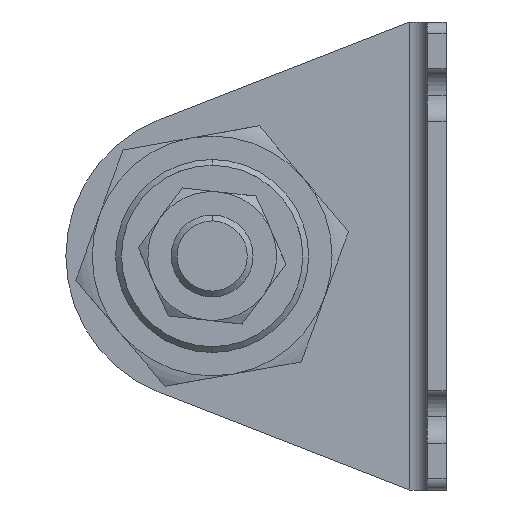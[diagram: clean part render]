
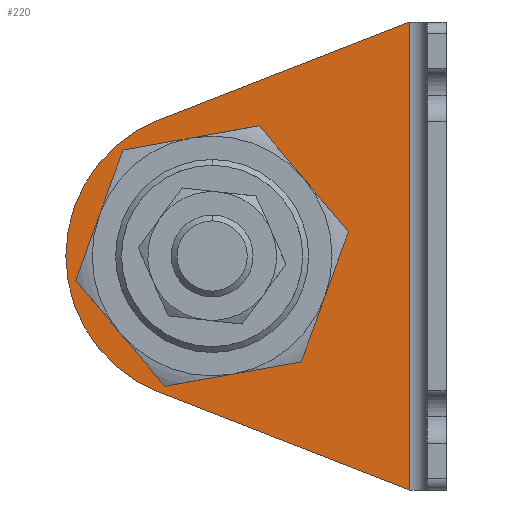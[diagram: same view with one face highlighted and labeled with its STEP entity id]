
A CAD part, left-side view. The second image highlights one B-rep face of the part: STEP entity #220.
In plain terms, the highlighted planar face has unit normal (-1, 0, 0) as drawn and (1, 0, 0) by its records, which use the part's own axes.
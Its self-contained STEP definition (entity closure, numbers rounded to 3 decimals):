
#92 = FACE_OUTER_BOUND ( 'NONE', #2438, .T. ) ;
#209 = VECTOR ( 'NONE', #4400, 1000. ) ;
#211 = CARTESIAN_POINT ( 'NONE',  ( 3.2, 23.5, -40. ) ) ;
#220 = ADVANCED_FACE ( 'NONE', ( #1463, #92 ), #3112, .T. ) ;
#252 = CARTESIAN_POINT ( 'NONE',  ( 3.2, 30.657, -9.529 ) ) ;
#290 = DIRECTION ( 'NONE',  ( 1., 0., 0. ) ) ;
#297 = VERTEX_POINT ( 'NONE', #211 ) ;
#440 = LINE ( 'NONE', #2666, #209 ) ;
#454 = EDGE_CURVE ( 'NONE', #2037, #2453, #2392, .T. ) ;
#502 = DIRECTION ( 'NONE',  ( 1., 0., 0. ) ) ;
#607 = CARTESIAN_POINT ( 'NONE',  ( 3.2, 40., -40. ) ) ;
#752 = VERTEX_POINT ( 'NONE', #942 ) ;
#892 = ORIENTED_EDGE ( 'NONE', *, *, #3447, .T. ) ;
#942 = CARTESIAN_POINT ( 'NONE',  ( 3.2, 65., -40. ) ) ;
#1058 = ORIENTED_EDGE ( 'NONE', *, *, #454, .F. ) ;
#1097 = EDGE_CURVE ( 'NONE', #1955, #297, #3489, .T. ) ;
#1231 = AXIS2_PLACEMENT_3D ( 'NONE', #4768, #2658, #2183 ) ;
#1339 = CARTESIAN_POINT ( 'NONE',  ( 3.2, 6.2, -80. ) ) ;
#1348 = CARTESIAN_POINT ( 'NONE',  ( 3.2, 40., -40. ) ) ;
#1350 = CIRCLE ( 'NONE', #3537, 25. ) ;
#1387 = CIRCLE ( 'NONE', #1231, 16.5 ) ;
#1405 = CARTESIAN_POINT ( 'NONE',  ( 3.2, 40., -40. ) ) ;
#1411 = LINE ( 'NONE', #3445, #4163 ) ;
#1463 = FACE_BOUND ( 'NONE', #1960, .T. ) ;
#1496 = VERTEX_POINT ( 'NONE', #1339 ) ;
#1660 = DIRECTION ( 'NONE',  ( 0., 1., 0. ) ) ;
#1690 = ORIENTED_EDGE ( 'NONE', *, *, #3438, .T. ) ;
#1892 = DIRECTION ( 'NONE',  ( 1., 0., 0. ) ) ;
#1955 = VERTEX_POINT ( 'NONE', #2034 ) ;
#1957 = ORIENTED_EDGE ( 'NONE', *, *, #1097, .F. ) ;
#1960 = EDGE_LOOP ( 'NONE', ( #1957, #4420 ) ) ;
#2034 = CARTESIAN_POINT ( 'NONE',  ( 3.2, 56.5, -40. ) ) ;
#2037 = VERTEX_POINT ( 'NONE', #4693 ) ;
#2087 = DIRECTION ( 'NONE',  ( 1., 0., 0. ) ) ;
#2097 = CARTESIAN_POINT ( 'NONE',  ( 3.2, 49.076, -16.706 ) ) ;
#2183 = DIRECTION ( 'NONE',  ( 0., 1., 0. ) ) ;
#2280 = ORIENTED_EDGE ( 'NONE', *, *, #3428, .T. ) ;
#2392 = LINE ( 'NONE', #252, #2891 ) ;
#2438 = EDGE_LOOP ( 'NONE', ( #4403, #1690, #2280, #1058, #892 ) ) ;
#2453 = VERTEX_POINT ( 'NONE', #2097 ) ;
#2605 = AXIS2_PLACEMENT_3D ( 'NONE', #1405, #502, #3051 ) ;
#2658 = DIRECTION ( 'NONE',  ( 1., 0., 0. ) ) ;
#2666 = CARTESIAN_POINT ( 'NONE',  ( 3.2, 6.2, -80. ) ) ;
#2744 = DIRECTION ( 'NONE',  ( 0., 1., 0. ) ) ;
#2778 = CIRCLE ( 'NONE', #3744, 25. ) ;
#2891 = VECTOR ( 'NONE', #2956, 1000. ) ;
#2956 = DIRECTION ( 'NONE',  ( 0., 0.932, -0.363 ) ) ;
#3051 = DIRECTION ( 'NONE',  ( 0., 1., 0. ) ) ;
#3078 = EDGE_CURVE ( 'NONE', #297, #1955, #1387, .T. ) ;
#3112 = PLANE ( 'NONE',  #4448 ) ;
#3267 = CARTESIAN_POINT ( 'NONE',  ( 3.2, 3.2, -80. ) ) ;
#3428 = EDGE_CURVE ( 'NONE', #752, #2453, #1350, .T. ) ;
#3438 = EDGE_CURVE ( 'NONE', #3997, #752, #2778, .T. ) ;
#3445 = CARTESIAN_POINT ( 'NONE',  ( 3.2, 3.595, -81.015 ) ) ;
#3447 = EDGE_CURVE ( 'NONE', #2037, #1496, #440, .T. ) ;
#3489 = CIRCLE ( 'NONE', #2605, 16.5 ) ;
#3537 = AXIS2_PLACEMENT_3D ( 'NONE', #607, #1892, #1660 ) ;
#3744 = AXIS2_PLACEMENT_3D ( 'NONE', #1348, #290, #2744 ) ;
#3895 = DIRECTION ( 'NONE',  ( 0., 1., 0. ) ) ;
#3997 = VERTEX_POINT ( 'NONE', #4256 ) ;
#4163 = VECTOR ( 'NONE', #4686, 1000. ) ;
#4256 = CARTESIAN_POINT ( 'NONE',  ( 3.2, 49.076, -63.294 ) ) ;
#4400 = DIRECTION ( 'NONE',  ( 0., 0., -1. ) ) ;
#4403 = ORIENTED_EDGE ( 'NONE', *, *, #4788, .T. ) ;
#4420 = ORIENTED_EDGE ( 'NONE', *, *, #3078, .F. ) ;
#4448 = AXIS2_PLACEMENT_3D ( 'NONE', #3267, #2087, #3895 ) ;
#4686 = DIRECTION ( 'NONE',  ( 0., 0.932, 0.363 ) ) ;
#4693 = CARTESIAN_POINT ( 'NONE',  ( 3.2, 6.2, 0. ) ) ;
#4768 = CARTESIAN_POINT ( 'NONE',  ( 3.2, 40., -40. ) ) ;
#4788 = EDGE_CURVE ( 'NONE', #1496, #3997, #1411, .T. ) ;
